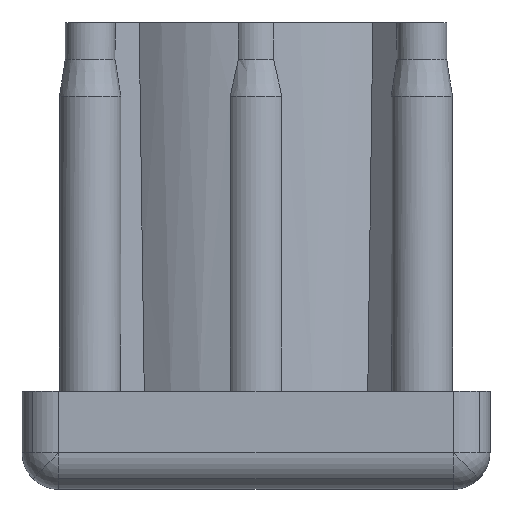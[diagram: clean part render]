
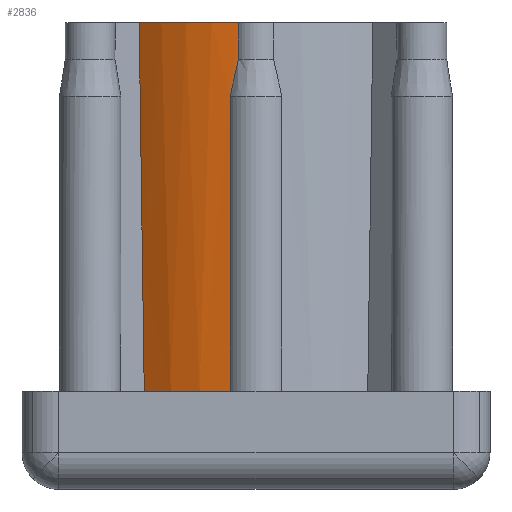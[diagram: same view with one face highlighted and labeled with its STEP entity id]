
A CAD part, front view. The second image highlights one B-rep face of the part: STEP entity #2836.
In plain terms, the highlighted cylindrical face has radius 15 mm (diameter 30 mm), a partial arc.
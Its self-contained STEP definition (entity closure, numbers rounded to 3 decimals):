
#189 = EDGE_LOOP ( 'NONE', ( #2242, #2580, #1755, #469, #1341, #3262 ) ) ;
#469 = ORIENTED_EDGE ( 'NONE', *, *, #2050, .T. ) ;
#491 = DIRECTION ( 'NONE',  ( 0., 0., 1. ) ) ;
#498 = CARTESIAN_POINT ( 'NONE',  ( -1.432, -14.931, 35.75 ) ) ;
#530 = CARTESIAN_POINT ( 'NONE',  ( -2.103, -14.852, 31.25 ) ) ;
#562 = FACE_OUTER_BOUND ( 'NONE', #189, .T. ) ;
#648 = CARTESIAN_POINT ( 'NONE',  ( -2.103, -14.852, 22.25 ) ) ;
#834 = CARTESIAN_POINT ( 'NONE',  ( -1.632, -14.912, 33.442 ) ) ;
#989 = CARTESIAN_POINT ( 'NONE',  ( 0., 0., 37.25 ) ) ;
#1008 = CARTESIAN_POINT ( 'NONE',  ( -2.103, -14.852, 31.25 ) ) ;
#1109 = EDGE_CURVE ( 'NONE', #1208, #2148, #3731, .T. ) ;
#1116 = AXIS2_PLACEMENT_3D ( 'NONE', #3329, #2484, #1874 ) ;
#1208 = VERTEX_POINT ( 'NONE', #1008 ) ;
#1341 = ORIENTED_EDGE ( 'NONE', *, *, #1109, .T. ) ;
#1653 = AXIS2_PLACEMENT_3D ( 'NONE', #989, #2781, #3047 ) ;
#1743 = CARTESIAN_POINT ( 'NONE',  ( -1.856, -14.887, 32.442 ) ) ;
#1747 = LINE ( 'NONE', #648, #2699 ) ;
#1755 = ORIENTED_EDGE ( 'NONE', *, *, #3196, .T. ) ;
#1839 = VERTEX_POINT ( 'NONE', #3119 ) ;
#1874 = DIRECTION ( 'NONE',  ( -0.707, -0.707, -0.002 ) ) ;
#1940 = AXIS2_PLACEMENT_3D ( 'NONE', #2022, #2636, #3545 ) ;
#2000 = CARTESIAN_POINT ( 'NONE',  ( -9.098, -11.926, 7.25 ) ) ;
#2022 = CARTESIAN_POINT ( 'NONE',  ( 0., 0., 7.25 ) ) ;
#2030 = VERTEX_POINT ( 'NONE', #2416 ) ;
#2050 = EDGE_CURVE ( 'NONE', #2188, #1208, #1747, .T. ) ;
#2057 = VECTOR ( 'NONE', #491, 1000. ) ;
#2148 = VERTEX_POINT ( 'NONE', #3709 ) ;
#2188 = VERTEX_POINT ( 'NONE', #3465 ) ;
#2228 = VERTEX_POINT ( 'NONE', #2000 ) ;
#2240 = LINE ( 'NONE', #498, #2057 ) ;
#2242 = ORIENTED_EDGE ( 'NONE', *, *, #3581, .F. ) ;
#2320 = CIRCLE ( 'NONE', #1116, 48254.36 ) ;
#2416 = CARTESIAN_POINT ( 'NONE',  ( -1.432, -14.931, 37.25 ) ) ;
#2484 = DIRECTION ( 'NONE',  ( 0.707, -0.707, 0.017 ) ) ;
#2580 = ORIENTED_EDGE ( 'NONE', *, *, #2849, .T. ) ;
#2622 = AXIS2_PLACEMENT_3D ( 'NONE', #2880, #2850, #3486 ) ;
#2636 = DIRECTION ( 'NONE',  ( 0., 0., 1. ) ) ;
#2699 = VECTOR ( 'NONE', #3316, 1000. ) ;
#2781 = DIRECTION ( 'NONE',  ( 0., 0., -1. ) ) ;
#2836 = ADVANCED_FACE ( 'NONE', ( #562 ), #3092, .T. ) ;
#2849 = EDGE_CURVE ( 'NONE', #1839, #2228, #2320, .T. ) ;
#2850 = DIRECTION ( 'NONE',  ( 0., 0., 1. ) ) ;
#2880 = CARTESIAN_POINT ( 'NONE',  ( 0., 0., 37.25 ) ) ;
#2948 = CIRCLE ( 'NONE', #2622, 15. ) ;
#3047 = DIRECTION ( 'NONE',  ( -1., 0., 0. ) ) ;
#3092 = CYLINDRICAL_SURFACE ( 'NONE', #1653, 15. ) ;
#3119 = CARTESIAN_POINT ( 'NONE',  ( -9.511, -11.599, 37.25 ) ) ;
#3196 = EDGE_CURVE ( 'NONE', #2228, #2188, #3378, .T. ) ;
#3262 = ORIENTED_EDGE ( 'NONE', *, *, #3536, .T. ) ;
#3316 = DIRECTION ( 'NONE',  ( 0., 0., 1. ) ) ;
#3329 = CARTESIAN_POINT ( 'NONE',  ( 34110.396, 34110.363, 120.499 ) ) ;
#3378 = CIRCLE ( 'NONE', #1940, 15. ) ;
#3465 = CARTESIAN_POINT ( 'NONE',  ( -2.103, -14.852, 7.25 ) ) ;
#3486 = DIRECTION ( 'NONE',  ( 1., 0., 0. ) ) ;
#3536 = EDGE_CURVE ( 'NONE', #2148, #2030, #2240, .T. ) ;
#3545 = DIRECTION ( 'NONE',  ( 1., 0., 0. ) ) ;
#3581 = EDGE_CURVE ( 'NONE', #1839, #2030, #2948, .T. ) ;
#3709 = CARTESIAN_POINT ( 'NONE',  ( -1.432, -14.931, 34.25 ) ) ;
#3731 = B_SPLINE_CURVE_WITH_KNOTS ( 'NONE', 3,
 ( #530, #1743, #834, #3788 ),
 .UNSPECIFIED., .F., .F.,
 ( 4, 4 ),
 ( 0., 1. ),
 .UNSPECIFIED. ) ;
#3788 = CARTESIAN_POINT ( 'NONE',  ( -1.432, -14.931, 34.25 ) ) ;
